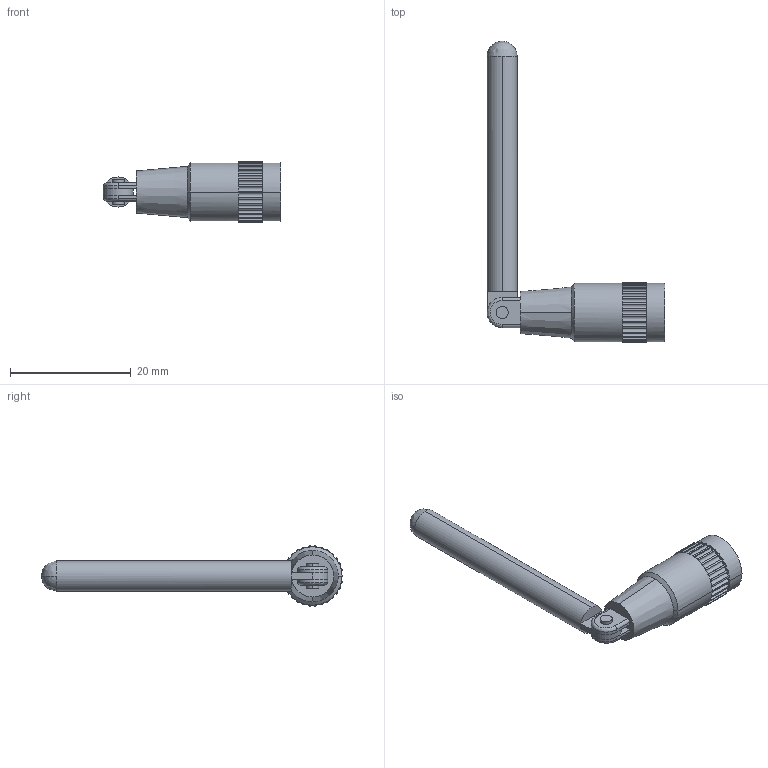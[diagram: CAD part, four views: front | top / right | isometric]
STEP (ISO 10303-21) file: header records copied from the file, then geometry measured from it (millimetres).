
FILE_DESCRIPTION (( 'STEP AP214' ), '1' );
FILE_NAME ('TG.09.0113_Web.STEP', '2019-12-13T01:20:15', ( '' ), ( '' ), 'SwSTEP 2.0', 'SolidWorks 2017', '' );
FILE_SCHEMA (( 'AUTOMOTIVE_DESIGN' ));
Length unit declared in the file: millimetre
Products named in the file (5): BOTTOM; TOP; TG.09.0113_Web
Assembly tree (2 placements, depth 2):
  BOTTOM
  TOP
  TG.09.0113_Web
    TOP
    BOTTOM
Bounding box: 29.5 x 50 x 9.97 mm (x, y, z)
Volume: 2245 mm3; surface area: 1859 mm2
Topology: 2 solids, 2 shells, 264 faces, 634 edges, 376 vertices
Faces by surface type: plane 144, cylinder 110, cone 6, bspline 4
Entity records: 8000 total; most frequent: DIRECTION 1639, CARTESIAN_POINT 1376, ORIENTED_EDGE 1260, AXIS2_PLACEMENT_3D 745, EDGE_CURVE 630, CIRCLE 479, VERTEX_POINT 376, EDGE_LOOP 274
